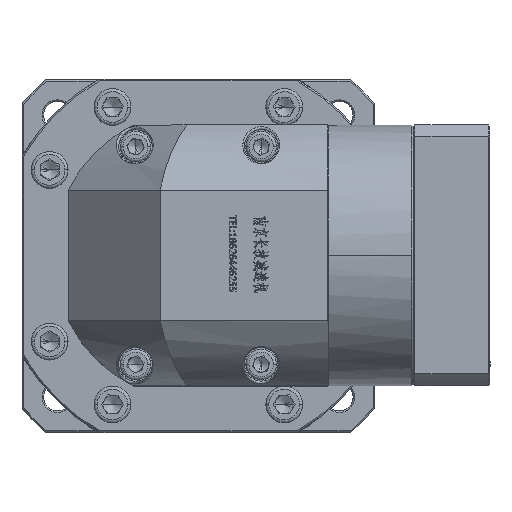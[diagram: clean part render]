
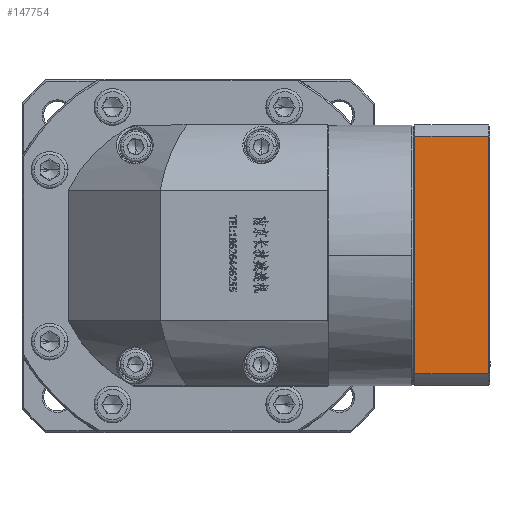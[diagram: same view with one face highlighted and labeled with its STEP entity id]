
A CAD part, top view. The second image highlights one B-rep face of the part: STEP entity #147754.
In plain terms, the highlighted planar face has unit normal (0, 0, 1).
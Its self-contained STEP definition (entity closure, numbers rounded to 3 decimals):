
#2985 = CARTESIAN_POINT ( 'NONE',  ( 123.48, 153.437, -9.136 ) ) ;
#4397 = VERTEX_POINT ( 'NONE', #92755 ) ;
#13525 = EDGE_CURVE ( 'NONE', #48313, #4397, #49633, .T. ) ;
#18277 = ORIENTED_EDGE ( 'NONE', *, *, #51965, .F. ) ;
#20758 = ORIENTED_EDGE ( 'NONE', *, *, #122152, .F. ) ;
#21523 = LINE ( 'NONE', #151235, #92679 ) ;
#29389 = EDGE_LOOP ( 'NONE', ( #177822, #18277, #20758, #89650 ) ) ;
#38317 = DIRECTION ( 'NONE',  ( 0., -1., 0. ) ) ;
#48313 = VERTEX_POINT ( 'NONE', #57336 ) ;
#49633 = LINE ( 'NONE', #144957, #140737 ) ;
#51965 = EDGE_CURVE ( 'NONE', #122677, #4397, #21523, .T. ) ;
#52875 = CARTESIAN_POINT ( 'NONE',  ( 123.98, 153.437, -9.136 ) ) ;
#53492 = VECTOR ( 'NONE', #82049, 1000. ) ;
#54692 = DIRECTION ( 'NONE',  ( 0., 0., -1. ) ) ;
#57336 = CARTESIAN_POINT ( 'NONE',  ( 99.48, 153.437, -9.136 ) ) ;
#60291 = VECTOR ( 'NONE', #38317, 1000. ) ;
#60661 = FACE_OUTER_BOUND ( 'NONE', #29389, .T. ) ;
#78389 = VERTEX_POINT ( 'NONE', #2985 ) ;
#82049 = DIRECTION ( 'NONE',  ( 1., 0., 0. ) ) ;
#86677 = EDGE_CURVE ( 'NONE', #48313, #78389, #166714, .T. ) ;
#89323 = CARTESIAN_POINT ( 'NONE',  ( 123.48, 75.977, -9.136 ) ) ;
#89650 = ORIENTED_EDGE ( 'NONE', *, *, #86677, .F. ) ;
#92679 = VECTOR ( 'NONE', #136979, 1000. ) ;
#92755 = CARTESIAN_POINT ( 'NONE',  ( 99.48, 75.977, -9.136 ) ) ;
#101050 = AXIS2_PLACEMENT_3D ( 'NONE', #139792, #54692, #154003 ) ;
#116437 = DIRECTION ( 'NONE',  ( 0., -1., 0. ) ) ;
#122152 = EDGE_CURVE ( 'NONE', #78389, #122677, #140327, .T. ) ;
#122677 = VERTEX_POINT ( 'NONE', #89323 ) ;
#136979 = DIRECTION ( 'NONE',  ( -1., 0., 0. ) ) ;
#137014 = CARTESIAN_POINT ( 'NONE',  ( 123.48, 72.207, -9.136 ) ) ;
#139792 = CARTESIAN_POINT ( 'NONE',  ( 123.98, 72.207, -9.136 ) ) ;
#140327 = LINE ( 'NONE', #137014, #60291 ) ;
#140737 = VECTOR ( 'NONE', #116437, 1000. ) ;
#144957 = CARTESIAN_POINT ( 'NONE',  ( 99.48, 72.207, -9.136 ) ) ;
#147754 = ADVANCED_FACE ( 'NONE', ( #60661 ), #153404, .F. ) ;
#151235 = CARTESIAN_POINT ( 'NONE',  ( -65.281, 75.977, -9.136 ) ) ;
#153404 = PLANE ( 'NONE',  #101050 ) ;
#154003 = DIRECTION ( 'NONE',  ( 0., 1., 0. ) ) ;
#166714 = LINE ( 'NONE', #52875, #53492 ) ;
#177822 = ORIENTED_EDGE ( 'NONE', *, *, #13525, .T. ) ;
